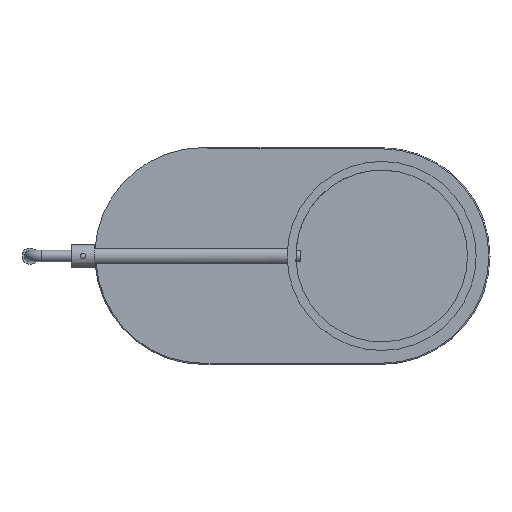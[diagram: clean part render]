
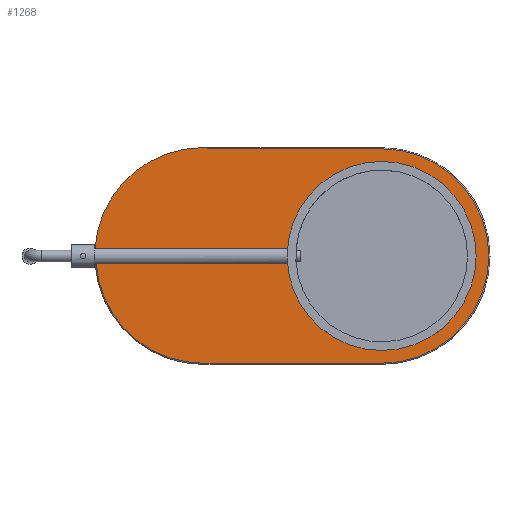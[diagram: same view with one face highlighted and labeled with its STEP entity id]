
A CAD part, top view. The second image highlights one B-rep face of the part: STEP entity #1268.
In plain terms, the highlighted planar face has unit normal (0, 0, 1).
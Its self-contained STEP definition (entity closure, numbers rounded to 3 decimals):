
#397=CARTESIAN_POINT('',(0.0,-93.0,3.5));
#398=VERTEX_POINT('',#397);
#406=CARTESIAN_POINT('',(-154.999,-93.0,3.5));
#407=VERTEX_POINT('',#406);
#408=CARTESIAN_POINT('',(0.0,-93.0,3.5));
#409=DIRECTION('',(-1.0,0.0,0.0));
#410=VECTOR('',#409,154.999);
#411=LINE('',#408,#410);
#412=EDGE_CURVE('',#398,#407,#411,.T.);
#438=CARTESIAN_POINT('',(0.,93.0,3.5));
#439=VERTEX_POINT('',#438);
#447=CARTESIAN_POINT('',(0.0,0.0,3.5));
#448=DIRECTION('',(0.0,0.0,-1.0));
#449=DIRECTION('',(1.0,0.0,0.0));
#450=AXIS2_PLACEMENT_3D('',#447,#448,#449);
#451=CIRCLE('',#450,93.0);
#452=EDGE_CURVE('',#439,#398,#451,.T.);
#464=CARTESIAN_POINT('',(-247.639,-6.633,3.5));
#465=VERTEX_POINT('',#464);
#466=CARTESIAN_POINT('',(-154.852,0.025,3.5));
#467=DIRECTION('',(0.0,0.0,-1.0));
#468=DIRECTION('',(-0.682,-0.731,0.0));
#469=AXIS2_PLACEMENT_3D('',#466,#467,#468);
#470=CIRCLE('',#469,93.026);
#471=EDGE_CURVE('',#407,#465,#470,.T.);
#498=CARTESIAN_POINT('',(-140.833,93.,3.5));
#499=VERTEX_POINT('',#498);
#525=CARTESIAN_POINT('',(-140.833,93.,3.5));
#526=DIRECTION('',(1.0,0.0,0.0));
#527=VECTOR('',#526,140.833);
#528=LINE('',#525,#527);
#529=EDGE_CURVE('',#499,#439,#528,.T.);
#1190=CARTESIAN_POINT('',(-75.71,-6.633,3.5));
#1191=VERTEX_POINT('',#1190);
#1192=CARTESIAN_POINT('',(-75.71,-6.633,3.5));
#1193=DIRECTION('',(-1.0,0.0,0.0));
#1194=VECTOR('',#1193,171.929);
#1195=LINE('',#1192,#1194);
#1196=EDGE_CURVE('',#1191,#465,#1195,.T.);
#1198=CARTESIAN_POINT('',(-75.71,6.633,3.5));
#1199=VERTEX_POINT('',#1198);
#1217=CARTESIAN_POINT('',(-248.645,6.633,3.5));
#1218=VERTEX_POINT('',#1217);
#1219=CARTESIAN_POINT('',(-248.645,6.633,3.5));
#1220=DIRECTION('',(1.0,0.0,0.0));
#1221=VECTOR('',#1220,172.935);
#1222=LINE('',#1219,#1221);
#1223=EDGE_CURVE('',#1218,#1199,#1222,.T.);
#1241=CARTESIAN_POINT('',(-77.396,-0.026,3.5));
#1242=DIRECTION('',(0.0,0.0,1.0));
#1243=DIRECTION('',(1.0,0.0,0.0));
#1244=AXIS2_PLACEMENT_3D('',#1241,#1242,#1243);
#1245=PLANE('',#1244);
#1246=CARTESIAN_POINT('',(-154.852,0.025,3.5));
#1247=DIRECTION('',(0.0,0.0,-1.));
#1248=DIRECTION('',(-0.033,-0.999,0.0));
#1249=AXIS2_PLACEMENT_3D('',#1246,#1247,#1248);
#1250=CIRCLE('',#1249,94.026);
#1251=EDGE_CURVE('',#1218,#499,#1250,.T.);
#1252=ORIENTED_EDGE('',*,*,#1251,.F.);
#1253=ORIENTED_EDGE('',*,*,#1223,.T.);
#1254=CARTESIAN_POINT('',(0.0,0.0,3.5));
#1255=DIRECTION('',(0.0,0.0,1.0));
#1256=DIRECTION('',(-1.0,0.0,0.0));
#1257=AXIS2_PLACEMENT_3D('',#1254,#1255,#1256);
#1258=CIRCLE('',#1257,76.0);
#1259=EDGE_CURVE('',#1191,#1199,#1258,.T.);
#1260=ORIENTED_EDGE('',*,*,#1259,.F.);
#1261=ORIENTED_EDGE('',*,*,#1196,.T.);
#1262=ORIENTED_EDGE('',*,*,#471,.F.);
#1263=ORIENTED_EDGE('',*,*,#412,.F.);
#1264=ORIENTED_EDGE('',*,*,#452,.F.);
#1265=ORIENTED_EDGE('',*,*,#529,.F.);
#1266=EDGE_LOOP('',(#1252,#1253,#1260,#1261,#1262,#1263,#1264,#1265));
#1267=FACE_OUTER_BOUND('',#1266,.T.);
#1268=ADVANCED_FACE('',(#1267),#1245,.T.);
